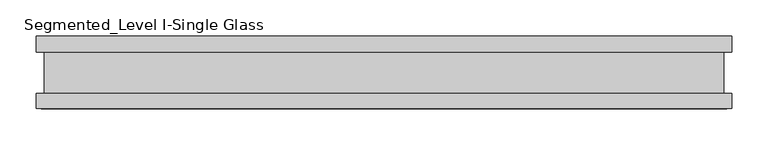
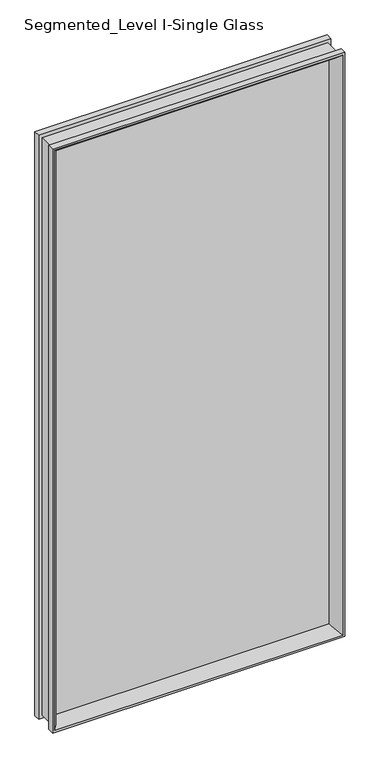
"""IFC4 building model written with IfcOpenShell, lengths in millimetres: proxy geometry, Panel-Fascia-Teknion-Altos-Single_Glass : Segmented_Level I-Single Glass."""

from ifc_helpers import new_model, si_unit, frame, origin, place, context, project, spatial, polyline, ellipse_curve, outline, extrude, source, transform, mapped, element, save
from ifc_brep_helpers import plane_surface, cylinder_surface, advanced_brep


def segmented_level_i_single_glass_277fe04a(model_context):
    return source(origin(), model_context, "Body", "SolidModel", [
        advanced_brep(
        [(454.4778894, 5.0827449, 2003.8723332), (472.4327398, 50.0558594, 2021.8271836), (472.4327398, 50.0558594, 10.1728164), (454.4778894, 5.0827449, 28.1276668), (464.9680805, -5.0827449, 2014.3625243), (464.9680805, 5.0827449, 2014.3625243), (464.9680805, 5.0827449, 17.6374757), (464.9680805, -5.0827449, 17.6374757), (472.4327398, -50.0558594, 2021.8271836), (454.4778894, -5.0827449, 2003.8723332), (454.4778894, -5.0827449, 28.1276668), (472.4327398, -50.0558594, 10.1728164), (479.4305563, -28.8801202, 2028.825), (479.4305563, -50.0558594, 2028.825), (479.4305563, -50.0558594, 3.175), (479.4305563, -28.8801202, 3.175), (468.6055563, 28.2698798, 2018.0000001), (468.6055563, -28.8801202, 2018.0000001), (468.6055563, -28.8801202, 13.9999999), (468.6055563, 28.2698798, 13.9999999), (479.4305563, 50.0558594, 2028.825), (479.4305563, 28.2698798, 2028.825), (479.4305563, 28.2698798, 3.175), (479.4305563, 50.0558594, 3.175), (-472.4327398, 50.0558594, 10.1728164), (-454.4778894, 5.0827449, 28.1276668), (-464.9680805, 5.0827449, 17.6374757), (-464.9680805, -5.0827449, 17.6374757), (-454.4778894, -5.0827449, 28.1276668), (-472.4327398, -50.0558594, 10.1728164), (-479.4305562, -50.0558594, 3.175), (-479.4305562, -28.8801202, 3.175), (-468.6055563, -28.8801202, 13.9999999), (-468.6055563, 28.2698798, 13.9999999), (-479.4305562, 28.2698798, 3.175), (-479.4305562, 50.0558594, 3.175), (-472.4327398, 50.0558594, 2021.8271836), (-454.4778894, 5.0827449, 2003.8723332), (-464.9680805, 5.0827449, 2014.3625243), (-464.9680805, -5.0827449, 2014.3625243), (-454.4778894, -5.0827449, 2003.8723332), (-472.4327398, -50.0558594, 2021.8271836), (-479.4305562, -50.0558594, 2028.825), (-479.4305562, -28.8801202, 2028.825), (-468.6055563, -28.8801202, 2018.0000001), (-468.6055563, 28.2698798, 2018.0000001), (-479.4305562, 28.2698798, 2028.825), (-479.4305562, 50.0558594, 2028.825)],
        [
            (0, 1, ellipse_curve(frame((506.5641268, 10.3587469, 2055.9585705), z_axis=(0.7071067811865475, 0.0, -0.7071067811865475), x_axis=(0.7071067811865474, 0.0, 0.7071067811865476)), 74.0379946, 52.352768)),
            (1, 2),
            (2, 3, ellipse_curve(frame((506.5641268, 10.3587469, -23.9585705), z_axis=(0.7071067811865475, 0.0, 0.7071067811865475), x_axis=(-0.7071067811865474, 0.0, 0.7071067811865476)), 74.0379946, 52.352768)),
            (3, 0),
            (4, 5),
            (5, 6),
            (6, 7),
            (7, 4),
            (8, 9, ellipse_curve(frame((506.5641268, -10.3587469, 2055.9585705), z_axis=(0.7071067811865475, 0.0, -0.7071067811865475), x_axis=(0.7071067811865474, 0.0, 0.7071067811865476)), 74.0379946, 52.352768)),
            (9, 10),
            (10, 11, ellipse_curve(frame((506.5641268, -10.3587469, -23.9585705), z_axis=(0.7071067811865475, 0.0, 0.7071067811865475), x_axis=(-0.7071067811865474, 0.0, 0.7071067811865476)), 74.0379946, 52.352768)),
            (11, 8),
            (12, 13),
            (13, 14),
            (14, 15),
            (15, 12),
            (16, 17),
            (17, 18),
            (18, 19),
            (19, 16),
            (20, 21),
            (21, 22),
            (22, 23),
            (23, 20),
            (2, 24),
            (24, 25, ellipse_curve(frame((-506.5641268, 10.3587469, -23.9585705), z_axis=(0.7071067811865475, 0.0, -0.7071067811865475), x_axis=(0.7071067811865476, 0.0, 0.7071067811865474)), 74.0379946, 52.352768)),
            (25, 3),
            (6, 26),
            (26, 27),
            (27, 7),
            (10, 28),
            (28, 29, ellipse_curve(frame((-506.5641268, -10.3587469, -23.9585705), z_axis=(0.7071067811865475, 0.0, -0.7071067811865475), x_axis=(0.7071067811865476, 0.0, 0.7071067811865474)), 74.0379946, 52.352768)),
            (29, 11),
            (14, 30),
            (30, 31),
            (31, 15),
            (18, 32),
            (32, 33),
            (33, 19),
            (22, 34),
            (34, 35),
            (35, 23),
            (24, 36),
            (36, 37, ellipse_curve(frame((-506.5641268, 10.3587469, 2055.9585705), z_axis=(-0.7071067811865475, 0.0, -0.7071067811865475), x_axis=(0.7071067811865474, 0.0, -0.7071067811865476)), 74.0379946, 52.352768)),
            (37, 25),
            (26, 38),
            (38, 39),
            (39, 27),
            (28, 40),
            (40, 41, ellipse_curve(frame((-506.5641268, -10.3587469, 2055.9585705), z_axis=(-0.7071067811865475, 0.0, -0.7071067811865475), x_axis=(0.7071067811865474, 0.0, -0.7071067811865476)), 74.0379946, 52.352768)),
            (41, 29),
            (30, 42),
            (42, 43),
            (43, 31),
            (32, 44),
            (44, 45),
            (45, 33),
            (34, 46),
            (46, 47),
            (47, 35),
            (47, 20),
            (1, 36),
            (0, 37),
            (5, 38),
            (4, 39),
            (9, 40),
            (8, 41),
            (13, 42),
            (12, 43),
            (17, 44),
            (16, 45),
            (21, 46),
        ],
        [
            cylinder_surface(frame((506.5641268, 10.3587469, 2028.825), z_axis=(0.0, 0.0, 1.0), x_axis=(1.0, 0.0, 0.0)), 52.352768),
            plane_surface(frame((464.9680805, 5.0827449, 2014.3625243), z_axis=(-1.0, 0.0, 0.0), x_axis=(0.0, 0.0, -1.0))),
            cylinder_surface(frame((506.5641268, -10.3587469, 2028.825), z_axis=(0.0, 0.0, 1.0), x_axis=(1.0, 0.0, 0.0)), 52.352768),
            plane_surface(frame((479.4305563, -50.0558594, 2028.825), z_axis=(1.0, 0.0, 0.0), x_axis=(0.0, 0.0, -1.0))),
            plane_surface(frame((468.6055563, -28.8801202, 2018.0000001), z_axis=(1.0, 0.0, 0.0), x_axis=(0.0, 0.0, -1.0))),
            plane_surface(frame((479.4305563, 28.2698798, 2028.825), z_axis=(1.0, 0.0, 0.0), x_axis=(0.0, 0.0, -1.0))),
            cylinder_surface(frame((479.4305563, 10.3587469, -23.9585705), z_axis=(1.0, 0.0, 0.0), x_axis=(0.0, 0.0, -1.0)), 52.352768),
            plane_surface(frame((464.9680805, 5.0827449, 17.6374757), z_axis=(0.0, 0.0, 1.0), x_axis=(-1.0, 0.0, 0.0))),
            cylinder_surface(frame((479.4305563, -10.3587469, -23.9585705), z_axis=(1.0, 0.0, 0.0), x_axis=(0.0, 0.0, -1.0)), 52.352768),
            plane_surface(frame((479.4305563, -50.0558594, 3.175), z_axis=(0.0, 0.0, -1.0), x_axis=(-1.0, 0.0, 0.0))),
            plane_surface(frame((468.6055563, -28.8801202, 13.9999999), z_axis=(0.0, 0.0, -1.0), x_axis=(-1.0, 0.0, 0.0))),
            plane_surface(frame((479.4305563, 28.2698798, 3.175), z_axis=(0.0, 0.0, -1.0), x_axis=(-1.0, 0.0, 0.0))),
            cylinder_surface(frame((-506.5641268, 10.3587469, 3.175), z_axis=(0.0, 0.0, -1.0), x_axis=(-1.0, 0.0, 0.0)), 52.352768),
            plane_surface(frame((-464.9680805, 5.0827449, 17.6374757), z_axis=(1.0, 0.0, 0.0), x_axis=(0.0, 0.0, 1.0))),
            cylinder_surface(frame((-506.5641268, -10.3587469, 3.175), z_axis=(0.0, 0.0, -1.0), x_axis=(-1.0, 0.0, 0.0)), 52.352768),
            plane_surface(frame((-479.4305562, -50.0558594, 3.175), z_axis=(-1.0, 0.0, 0.0), x_axis=(0.0, 0.0, 1.0))),
            plane_surface(frame((-468.6055563, -28.8801202, 13.9999999), z_axis=(-1.0, 0.0, 0.0), x_axis=(0.0, 0.0, 1.0))),
            plane_surface(frame((-479.4305562, 28.2698798, 3.175), z_axis=(-1.0, 0.0, 0.0), x_axis=(0.0, 0.0, 1.0))),
            plane_surface(frame((-479.4305562, 50.0558594, 2028.825), z_axis=(0.0, 1.0, 0.0), x_axis=(1.0, 0.0, 0.0))),
            cylinder_surface(frame((-479.4305562, 10.3587469, 2055.9585705), z_axis=(-1.0, 0.0, 0.0), x_axis=(0.0, 0.0, 1.0)), 52.352768),
            plane_surface(frame((-454.4778894, 5.0827449, 2003.8723332), z_axis=(0.0, -1.0, 0.0), x_axis=(1.0, 0.0, 0.0))),
            plane_surface(frame((-464.9680805, 5.0827449, 2014.3625243), z_axis=(0.0, 0.0, -1.0), x_axis=(1.0, 0.0, 0.0))),
            plane_surface(frame((-464.9680805, -5.0827449, 2014.3625243), z_axis=(0.0, 1.0, 0.0), x_axis=(1.0, 0.0, 0.0))),
            cylinder_surface(frame((-479.4305562, -10.3587469, 2055.9585705), z_axis=(-1.0, 0.0, 0.0), x_axis=(0.0, 0.0, 1.0)), 52.352768),
            plane_surface(frame((-472.4327398, -50.0558594, 2021.8271836), z_axis=(0.0, -1.0, 0.0), x_axis=(1.0, 0.0, 0.0))),
            plane_surface(frame((-479.4305562, -50.0558594, 2028.825), z_axis=(0.0, 0.0, 1.0), x_axis=(1.0, 0.0, 0.0))),
            plane_surface(frame((-479.4305562, -28.8801202, 2028.825), z_axis=(0.0, 1.0, 0.0), x_axis=(1.0, 0.0, 0.0))),
            plane_surface(frame((-468.6055563, -28.8801202, 2018.0000001), z_axis=(0.0, 0.0, 1.0), x_axis=(1.0, 0.0, 0.0))),
            plane_surface(frame((-468.6055563, 28.2698798, 2018.0000001), z_axis=(0.0, -1.0, 0.0), x_axis=(1.0, 0.0, 0.0))),
            plane_surface(frame((-479.4305562, 28.2698798, 2028.825), z_axis=(0.0, 0.0, 1.0), x_axis=(1.0, 0.0, 0.0))),
        ],
        [
            (0, [[1, 2, 3, 4]]),
            (1, [[5, 6, 7, 8]]),
            (2, [[9, 10, 11, 12]]),
            (3, [[13, 14, 15, 16]]),
            (4, [[17, 18, 19, 20]]),
            (5, [[21, 22, 23, 24]]),
            (6, [[-3, 25, 26, 27]]),
            (7, [[-7, 28, 29, 30]]),
            (8, [[-11, 31, 32, 33]]),
            (9, [[-15, 34, 35, 36]]),
            (10, [[-19, 37, 38, 39]]),
            (11, [[-23, 40, 41, 42]]),
            (12, [[-26, 43, 44, 45]]),
            (13, [[-29, 46, 47, 48]]),
            (14, [[-32, 49, 50, 51]]),
            (15, [[-35, 52, 53, 54]]),
            (16, [[-38, 55, 56, 57]]),
            (17, [[-41, 58, 59, 60]]),
            (18, [[-42, -60, 61, -24], [62, -43, -25, -2]]),
            (19, [[-44, -62, -1, 63]]),
            (20, [[64, -46, -28, -6], [-27, -45, -63, -4]]),
            (21, [[-47, -64, -5, 65]]),
            (22, [[-30, -48, -65, -8], [66, -49, -31, -10]]),
            (23, [[-50, -66, -9, 67]]),
            (24, [[68, -52, -34, -14], [-33, -51, -67, -12]]),
            (25, [[-53, -68, -13, 69]]),
            (26, [[-36, -54, -69, -16], [70, -55, -37, -18]]),
            (27, [[-56, -70, -17, 71]]),
            (28, [[72, -58, -40, -22], [-39, -57, -71, -20]]),
            (29, [[-59, -72, -21, -61]]),
        ],
    ),
        extrude(outline(polyline([(464.9680805, 2.9765625), (464.9680805, -2.9765625), (-464.9680805, -2.9765625), (-464.9680805, 2.9765625), (464.9680805, 2.9765625)])), frame((0.0, 0.0, 17.6374757), z_axis=(0.0, 0.0, 1.0), x_axis=(1.0, 0.0, 0.0)), (0.0, 0.0, 1.0), 1996.7250485),
    ])


if __name__ == "__main__":
    model = new_model("IFC4")
    model_context = context("Model", 3, world=origin())
    ifc_project = project(units=[si_unit("LENGTHUNIT", "METRE", prefix="MILLI")], contexts=[model_context])
    site = spatial("IfcSite", under=ifc_project)
    building = spatial("IfcBuilding", under=site)
    placement = place(None, origin())
    segmented_level_i_single_glass_shape = segmented_level_i_single_glass_277fe04a(model_context)
    element("IfcBuildingElementProxy", 1, Name="Panel-Fascia-Teknion-Altos-Single_Glass : Segmented_Level I-Single Glass", ObjectType="Panel-Fascia-Teknion-Altos-Single_Glass : Segmented_Level I-Single Glass", at=placement, inside=building, context=model_context, shape_type="MappedRepresentation", body=[
        mapped(segmented_level_i_single_glass_shape, transform((0.0, 0.0, 0.0), x_axis=(1.0, 0.0, 0.0), y_axis=(0.0, 1.0, 0.0), z_axis=(0.0, 0.0, 1.0))),
    ])
    save(model, "model.ifc")
